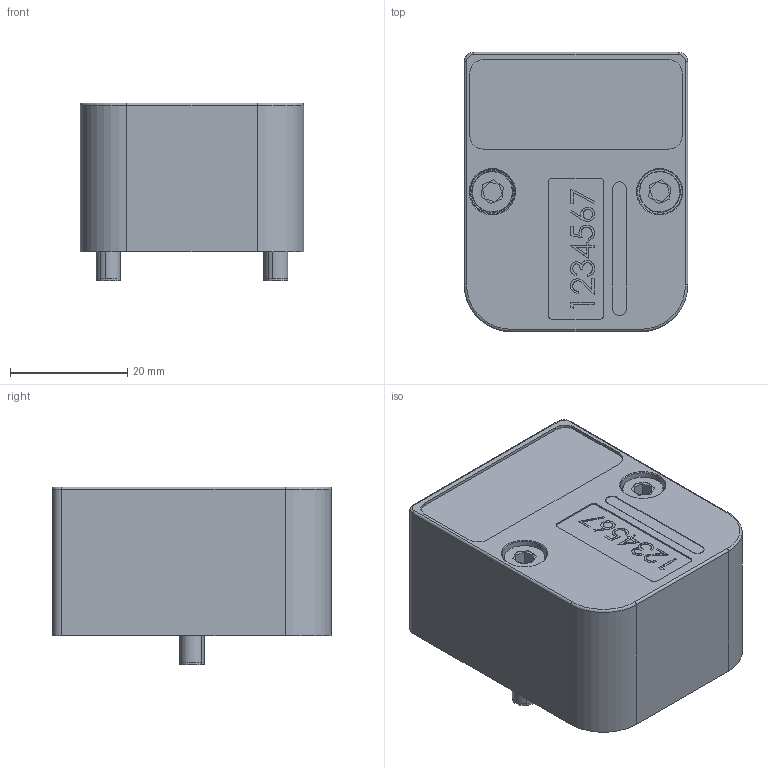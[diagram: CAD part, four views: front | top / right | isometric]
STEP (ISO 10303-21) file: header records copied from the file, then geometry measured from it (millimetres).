
FILE_DESCRIPTION (( 'STEP AP203' ), '1' );
FILE_NAME ('CVPLHT-B.step', '2020-10-12T14:11:23', ( 'Microsoft Corporation' ), ( 'MS' ), 'SwSTEP 2.0', 'SolidWorks 2018', '' );
FILE_SCHEMA (( 'CONFIG_CONTROL_DESIGN' ));
Length unit declared in the file: inch
Products named in the file (4): CVPLHT-B; SHCS8-32L1.00_SHCS8-32L1.00; SHCSM4-.7L25_SHCSM4-.7L25
Assembly tree (5 placements, depth 2):
  CVPLHT-B
    CVPLHT-B
    SHCS8-32L1.00_SHCS8-32L1.00  x2
    SHCSM4-.7L25_SHCSM4-.7L25  x2
Bounding box: 38.1 x 47.62 x 30.35 mm (x, y, z)
Volume: 45613.3 mm3; surface area: 10648.1 mm2
Topology: 5 solids, 5 shells, 210 faces, 514 edges, 338 vertices
Faces by surface type: plane 115, cylinder 48, bspline 37, cone 6, torus 4
Entity records: 7872 total; most frequent: CARTESIAN_POINT 3203, ORIENTED_EDGE 908, DIRECTION 776, EDGE_CURVE 454, VERTEX_POINT 298, VECTOR 290, LINE 290, AXIS2_PLACEMENT_3D 243
